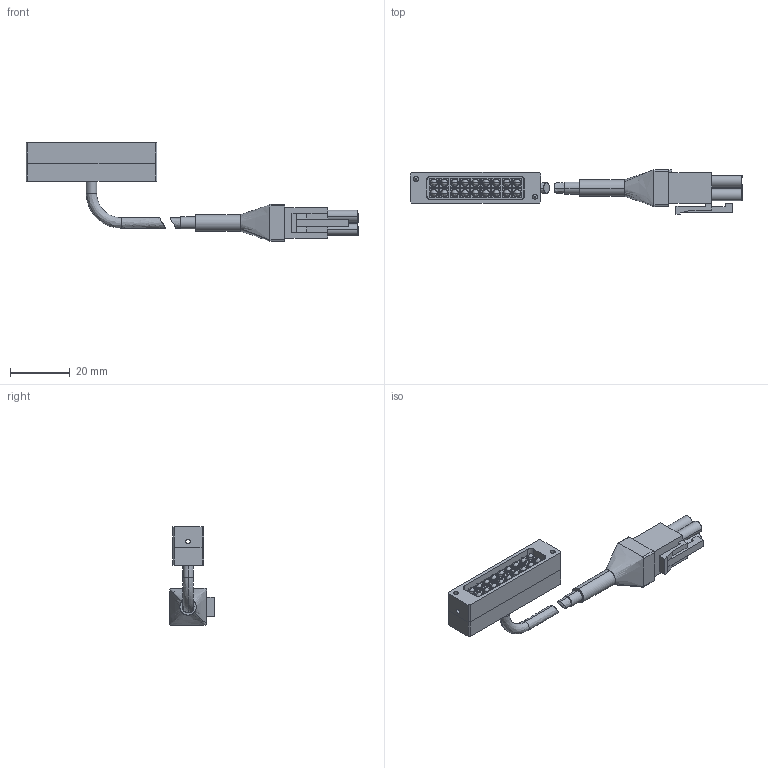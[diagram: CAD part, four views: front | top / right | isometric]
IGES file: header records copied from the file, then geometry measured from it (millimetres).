
Start section: SolidWorks IGES file using NURBS representation for surfaces
Bounding box: 111.6 x 15.05 x 33.2 mm (x, y, z)
Surface area: 6274.9 mm2 (no closed solid volume)
Topology: 0 solids, 0 shells, 372 faces, 2726 edges, 2690 vertices
Faces by surface type: bspline 372
